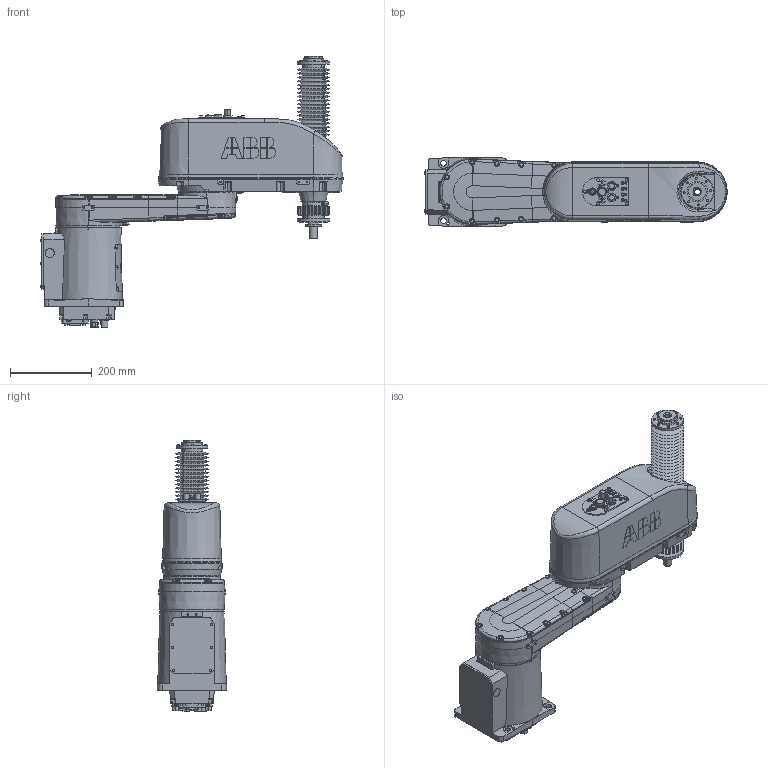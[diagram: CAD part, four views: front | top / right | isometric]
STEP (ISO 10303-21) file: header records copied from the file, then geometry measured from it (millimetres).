
FILE_DESCRIPTION (( 'STEP AP214' ), '1' );
FILE_NAME ('IRB920_6kg-550-145-IP54-BTM_OmniCore_rev00_Assembly.STEP', '2022-06-20T05:15:19', ( '' ), ( '' ), 'SwSTEP 2.0', 'SolidWorks 2020', '' );
FILE_SCHEMA (( 'AUTOMOTIVE_DESIGN' ));
Length unit declared in the file: millimetre
Products named in the file (5): IRB920_6kg-550-145-IP54-BTM_OmniCore_rev00_LINK1_CAD; IRB920_6kg-550-145-IP54-BTM_OmniCore_rev00_LINK3_CAD; IRB920_6kg-550-145-IP54-BTM_OmniCore_rev00_LINK0_CAD; IRB920_6kg-550-145-IP54-BTM_OmniCore_rev00_Assembly; IRB920_6kg-550-145-IP54-BTM_OmniCore_rev00_LINK2_CAD
Assembly tree (4 placements, depth 2):
  IRB920_6kg-550-145-IP54-BTM_OmniCore_rev00_Assembly
    IRB920_6kg-550-145-IP54-BTM_OmniCore_rev00_LINK0_CAD
    IRB920_6kg-550-145-IP54-BTM_OmniCore_rev00_LINK1_CAD
    IRB920_6kg-550-145-IP54-BTM_OmniCore_rev00_LINK2_CAD
    IRB920_6kg-550-145-IP54-BTM_OmniCore_rev00_LINK3_CAD
Bounding box: 739 x 170 x 663.63 mm (x, y, z)
Volume: 19911364.5 mm3; surface area: 1030070.5 mm2
Topology: 4 solids, 4 shells, 2520 faces, 6352 edges, 4083 vertices
Faces by surface type: plane 1270, cylinder 466, bspline 391, cone 378, torus 14, sphere 1
Entity records: 100544 total; most frequent: CARTESIAN_POINT 41165, ORIENTED_EDGE 12552, DIRECTION 10345, EDGE_CURVE 6276, VERTEX_POINT 4081, LINE 3655, VECTOR 3655, AXIS2_PLACEMENT_3D 3345
